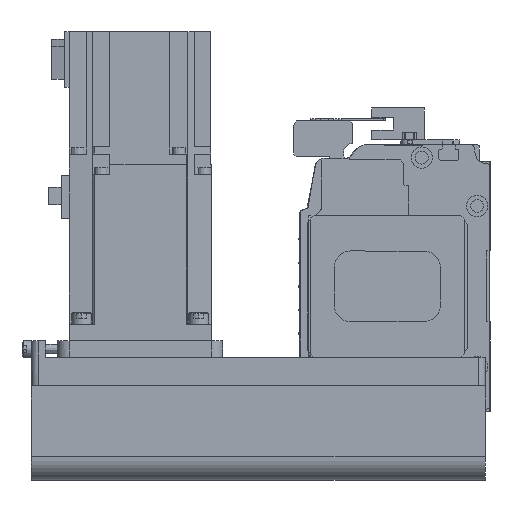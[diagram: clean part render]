
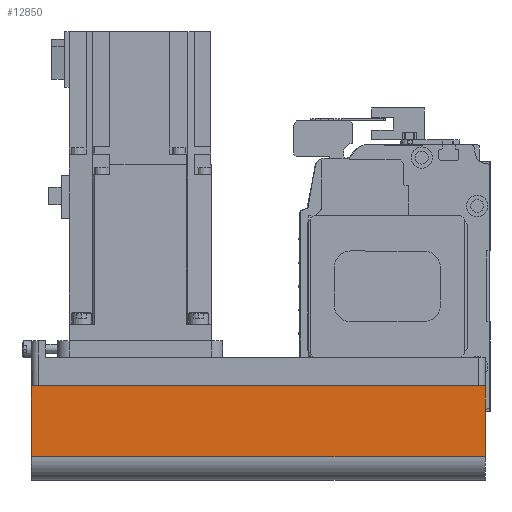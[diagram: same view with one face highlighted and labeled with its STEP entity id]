
A CAD part, left-side view. The second image highlights one B-rep face of the part: STEP entity #12850.
In plain terms, the highlighted planar face has unit normal (-1, 0, 0) as drawn and (0, -1, 0) by its records, which use the part's own axes.
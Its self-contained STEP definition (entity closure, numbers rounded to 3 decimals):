
#2309=ORIENTED_EDGE('',*,*,#5193,.F.);
#2310=ORIENTED_EDGE('',*,*,#5159,.F.);
#2311=ORIENTED_EDGE('',*,*,#5182,.T.);
#2312=ORIENTED_EDGE('',*,*,#5226,.T.);
#5159=EDGE_CURVE('',#6767,#6768,#8061,.T.);
#5182=EDGE_CURVE('',#6767,#6786,#8080,.T.);
#5193=EDGE_CURVE('',#6768,#6794,#8089,.T.);
#5226=EDGE_CURVE('',#6786,#6794,#8102,.T.);
#6767=VERTEX_POINT('',#20083);
#6768=VERTEX_POINT('',#20085);
#6786=VERTEX_POINT('',#20128);
#6794=VERTEX_POINT('',#20152);
#8061=LINE('',#20084,#9289);
#8080=LINE('',#20129,#9308);
#8089=LINE('',#20151,#9317);
#8102=LINE('',#20209,#9330);
#9289=VECTOR('',#16106,1000.);
#9308=VECTOR('',#16139,1000.);
#9317=VECTOR('',#16160,1000.);
#9330=VECTOR('',#16245,1000.);
#10386=EDGE_LOOP('',(#2309,#2310,#2311,#2312));
#11412=FACE_BOUND('',#10386,.T.);
#12269=PLANE('',#13863);
#12850=ADVANCED_FACE('',(#11412),#12269,.T.);
#13863=AXIS2_PLACEMENT_3D('',#20210,#16246,#16247);
#16106=DIRECTION('',(1.,0.,0.));
#16139=DIRECTION('',(0.,0.,-1.));
#16160=DIRECTION('',(0.,0.,-1.));
#16245=DIRECTION('',(1.,0.,0.));
#16246=DIRECTION('',(0.,-1.,0.));
#16247=DIRECTION('',(0.,0.,-1.));
#20083=CARTESIAN_POINT('',(-192.,-40.,-12.1));
#20084=CARTESIAN_POINT('',(-192.,-40.,-12.1));
#20085=CARTESIAN_POINT('',(0.,-40.,-12.1));
#20128=CARTESIAN_POINT('',(-192.,-40.,-42.));
#20129=CARTESIAN_POINT('',(-192.,-40.,-12.1));
#20151=CARTESIAN_POINT('',(0.,-40.,-12.1));
#20152=CARTESIAN_POINT('',(0.,-40.,-42.));
#20209=CARTESIAN_POINT('',(-192.,-40.,-42.));
#20210=CARTESIAN_POINT('',(-192.,-40.,-12.1));
